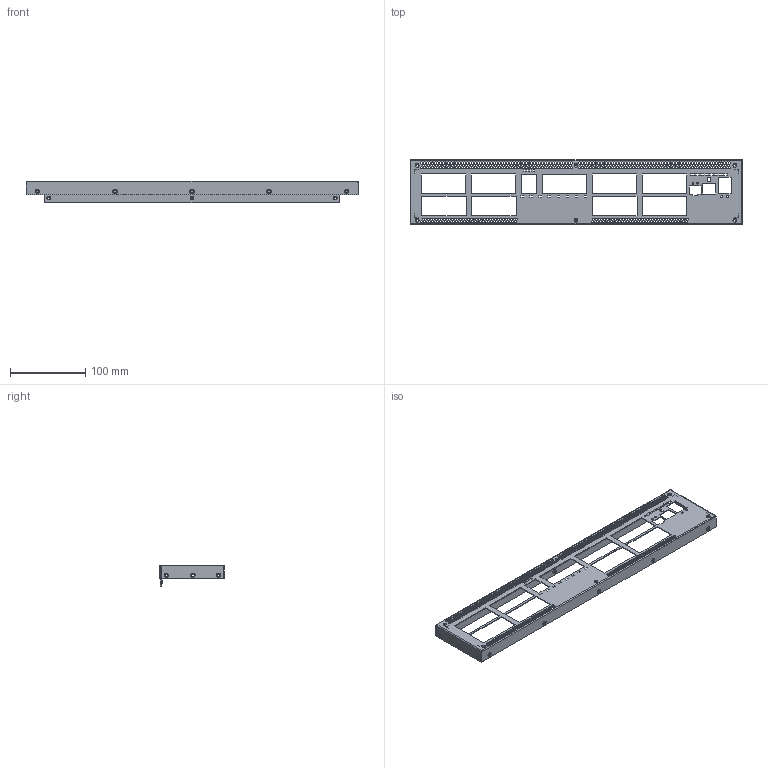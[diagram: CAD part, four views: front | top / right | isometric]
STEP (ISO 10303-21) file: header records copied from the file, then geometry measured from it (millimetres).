
FILE_DESCRIPTION((''),'2;1');
FILE_NAME('123300000297A_FRONT_BEZEL_ASM','2019-07-31T',('curtis_chen'),(''),'PRO/ENGINEER BY PARAMETRIC TECHNOLOGY CORPORATION, 2012480','PRO/ENGINEER BY PARAMETRIC TECHNOLOGY CORPORATION, 2012480','');
FILE_SCHEMA(('AUTOMOTIVE_DESIGN { 1 0 10303 214 1 1 1 1 }'));
Products named in the file (3): FRONT_BEZEL_ASFG964BBX; FB_NO_PAINTING; 123300000297A_FRONT_BEZEL_ASM
Assembly tree (2 placements, depth 2):
  123300000297A_FRONT_BEZEL_ASM
    FRONT_BEZEL_ASFG964BBX
    FB_NO_PAINTING
Bounding box: 440 x 85.9 x 29 mm (x, y, z)
Volume: 41779 mm3; surface area: 91528.3 mm2
Topology: 1 solids, 1 shells, 3324 faces, 9790 edges, 6472 vertices
Faces by surface type: plane 3188, cylinder 100, cone 22, torus 12, bspline 2
Entity records: 140337 total; most frequent: CARTESIAN_POINT 19705, ORIENTED_EDGE 19580, DIRECTION 16684, PRESENTATION_STYLE_ASSIGNMENT 9791, STYLED_ITEM 9791, CURVE_STYLE 9790, EDGE_CURVE 9790, VECTOR 9542
